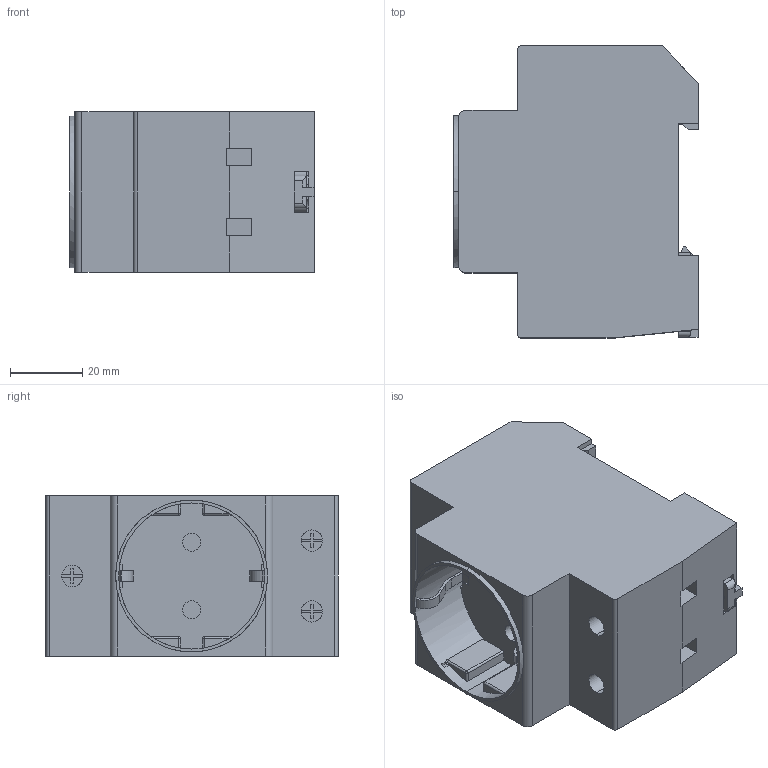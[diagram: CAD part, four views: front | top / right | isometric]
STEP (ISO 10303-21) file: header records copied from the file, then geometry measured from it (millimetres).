
FILE_DESCRIPTION (( 'STEP AP214' ), '1' );
FILE_NAME ('Dinrail stopcontact.STEP', '2025-07-29T12:57:48', ( '' ), ( '' ), 'SwSTEP 2.0', 'SolidWorks 2025', '' );
FILE_SCHEMA (( 'AUTOMOTIVE_DESIGN' ));
Length unit declared in the file: millimetre
Products named in the file (3): Dinrail stopcontact; CAD #11; Lipje algemeen
Assembly tree (2 placements, depth 2):
  Dinrail stopcontact
    CAD #11
    Lipje algemeen
Bounding box: 67.7 x 80.8 x 44.3 mm (x, y, z)
Volume: 155645.6 mm3; surface area: 32907.2 mm2
Topology: 2 solids, 2 shells, 391 faces, 1077 edges, 702 vertices
Faces by surface type: plane 295, cylinder 84, torus 8, sphere 4
Entity records: 12627 total; most frequent: CARTESIAN_POINT 2557, ORIENTED_EDGE 2146, DIRECTION 2005, EDGE_CURVE 1073, VECTOR 785, LINE 785, VERTEX_POINT 702, AXIS2_PLACEMENT_3D 610
